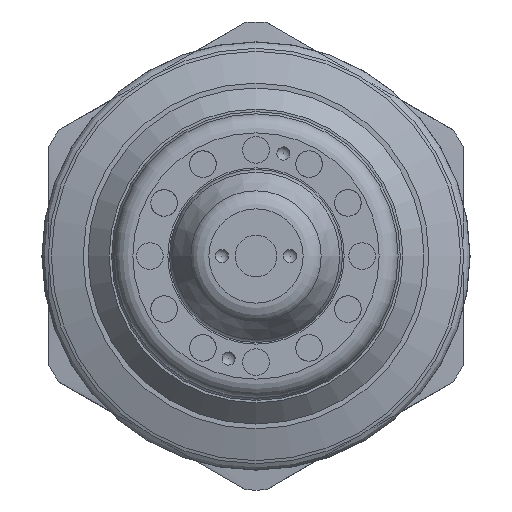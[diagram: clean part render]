
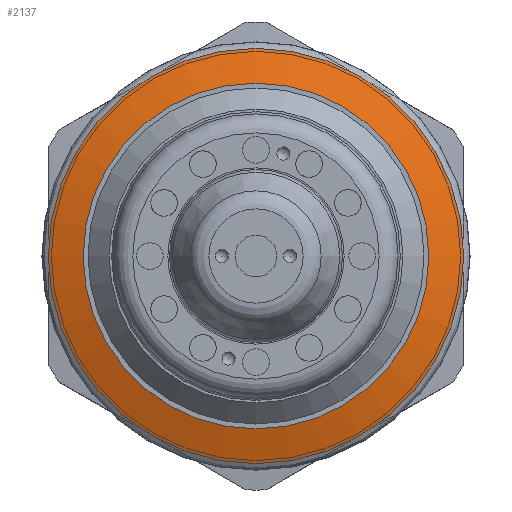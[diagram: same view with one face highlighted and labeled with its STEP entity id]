
A CAD part, left-side view. The second image highlights one B-rep face of the part: STEP entity #2137.
In plain terms, the highlighted conical face has half-angle 71.609 degrees and reference radius 9.121 mm.
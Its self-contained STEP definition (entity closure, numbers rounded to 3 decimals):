
#1981=CONICAL_SURFACE('',#4678,9.121,71.609);
#2137=ADVANCED_FACE('',(#2476,#2477),#1981,.T.);
#2476=FACE_BOUND('',#2702,.T.);
#2477=FACE_BOUND('',#2703,.T.);
#2702=EDGE_LOOP('',(#3037));
#2703=EDGE_LOOP('',(#3038));
#3037=ORIENTED_EDGE('',*,*,#4023,.T.);
#3038=ORIENTED_EDGE('',*,*,#4022,.F.);
#3727=VERTEX_POINT('',#6111);
#3728=VERTEX_POINT('',#6114);
#4022=EDGE_CURVE('',#3727,#3727,#4404,.T.);
#4023=EDGE_CURVE('',#3728,#3728,#4405,.T.);
#4404=CIRCLE('',#4673,9.121);
#4405=CIRCLE('',#4675,10.958);
#4673=AXIS2_PLACEMENT_3D('',#6110,#5229,#5230);
#4675=AXIS2_PLACEMENT_3D('',#6113,#5233,#5234);
#4678=AXIS2_PLACEMENT_3D('',#6118,#5239,#5240);
#5229=DIRECTION('',(-1.,0.,0.));
#5230=DIRECTION('',(0.,0.,-1.));
#5233=DIRECTION('',(-1.,0.,0.));
#5234=DIRECTION('',(0.,0.,-1.));
#5239=DIRECTION('',(1.,0.,0.));
#5240=DIRECTION('',(0.,0.,-1.));
#6110=CARTESIAN_POINT('',(-2.,0.,0.));
#6111=CARTESIAN_POINT('',(-2.,0.,-9.121));
#6113=CARTESIAN_POINT('',(-1.389,0.,0.));
#6114=CARTESIAN_POINT('',(-1.389,0.,-10.958));
#6118=CARTESIAN_POINT('',(-2.,0.,0.));
